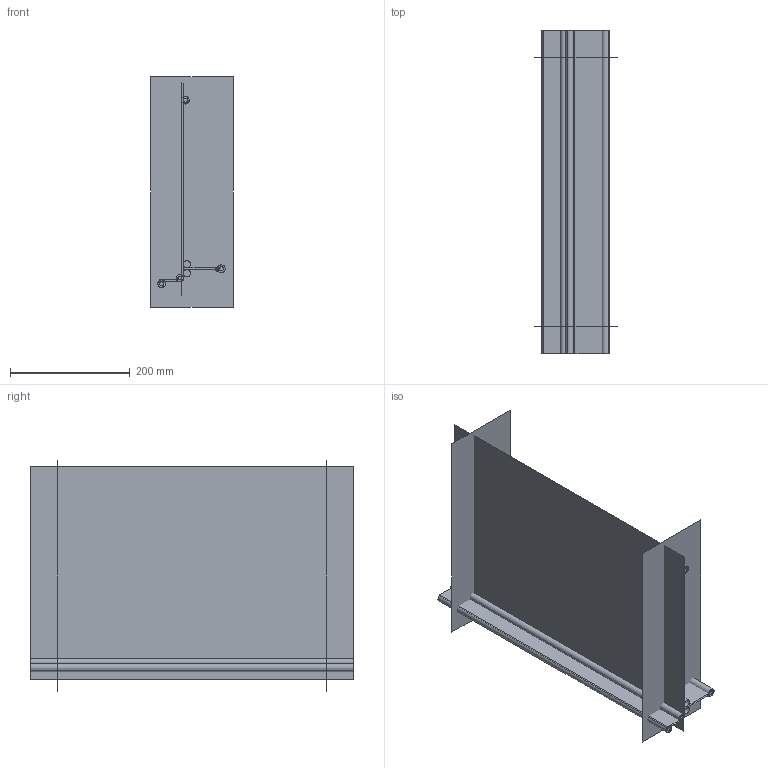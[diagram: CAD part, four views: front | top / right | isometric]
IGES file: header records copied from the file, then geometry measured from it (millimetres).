
Global section: file name: C:\Users\utente\Desktop\DANESE RG\3D Danese\archiviovivo\archiviovivo M.igs; native system: Rhinoceros ( Mar  9 2011 ); preprocessor: Trout Lake IGES 012 Mar  9 2011; date: 170412.100753; units: millimetre
Bounding box: 138.27 x 540 x 385.55 mm (x, y, z)
Surface area: 795011.4 mm2 (no closed solid volume)
Topology: 0 solids, 0 shells, 28 faces, 97 edges, 82 vertices
Faces by surface type: bspline 28
